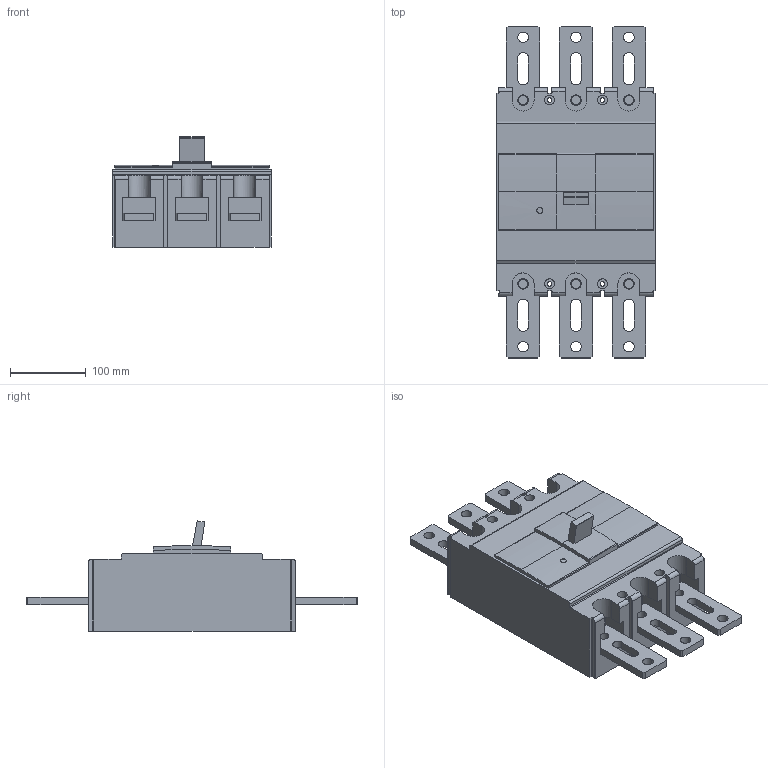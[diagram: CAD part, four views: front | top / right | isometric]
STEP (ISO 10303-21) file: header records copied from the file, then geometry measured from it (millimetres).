
FILE_DESCRIPTION (( 'STEP AP203' ), '1' );
FILE_NAME ('800N 3P.STEP', '2018-01-04T01:13:27', ( '' ), ( '' ), 'SwSTEP 2.0', 'SolidWorks 2015', '' );
FILE_SCHEMA (( 'CONFIG_CONTROL_DESIGN' ));
Length unit declared in the file: millimetre
Products named in the file (1): 800N 3P
Bounding box: 210 x 439 x 145.77 mm (x, y, z)
Volume: 5700995 mm3; surface area: 346097.5 mm2
Topology: 7 solids, 7 shells, 329 faces, 903 edges, 602 vertices
Faces by surface type: plane 184, cylinder 145
Entity records: 10878 total; most frequent: CARTESIAN_POINT 2241, ORIENTED_EDGE 1806, DIRECTION 1754, EDGE_CURVE 903, VERTEX_POINT 602, VECTOR 596, LINE 596, AXIS2_PLACEMENT_3D 579
